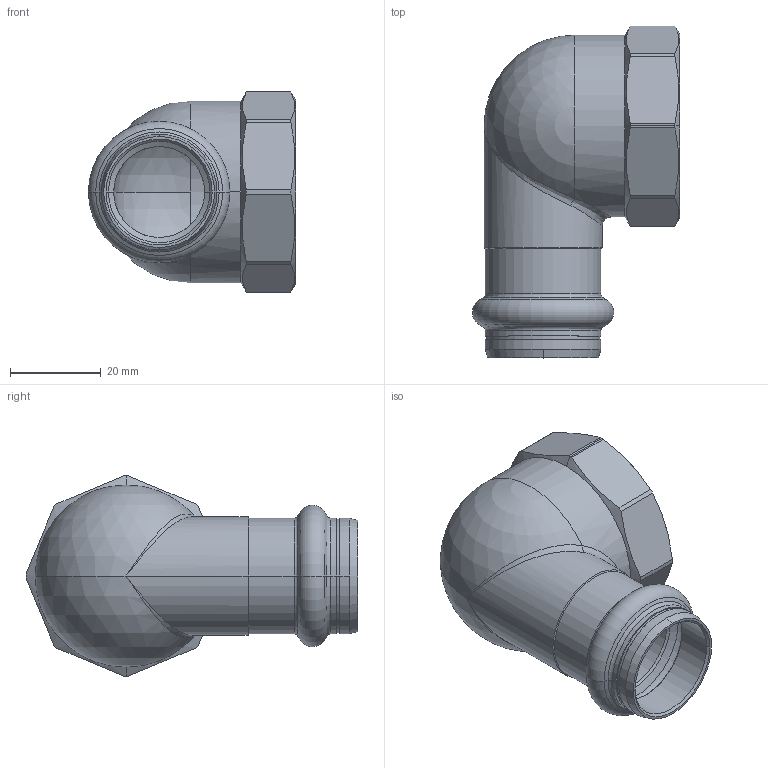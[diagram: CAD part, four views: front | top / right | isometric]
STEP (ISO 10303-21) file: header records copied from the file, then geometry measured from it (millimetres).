
FILE_DESCRIPTION (( 'STEP AP203' ), '1' );
FILE_NAME ('SP4090G Ø22 1.STEP', '2017-04-28T08:56:26', ( '' ), ( '' ), 'SwSTEP 2.0', 'SolidWorks 2016', '' );
FILE_SCHEMA (( 'CONFIG_CONTROL_DESIGN' ));
Length unit declared in the file: millimetre
Products named in the file (1): SP4090G ﾘ22 1
Bounding box: 45.55 x 73 x 44 mm (x, y, z)
Volume: 23896.2 mm3; surface area: 15676.3 mm2
Topology: 1 solids, 1 shells, 90 faces, 214 edges, 121 vertices
Faces by surface type: cylinder 31, cone 26, plane 13, torus 10, bspline 6, sphere 4
Entity records: 3556 total; most frequent: CARTESIAN_POINT 1467, DIRECTION 451, ORIENTED_EDGE 408, EDGE_CURVE 204, AXIS2_PLACEMENT_3D 193, VERTEX_POINT 119, CIRCLE 108, EDGE_LOOP 95
